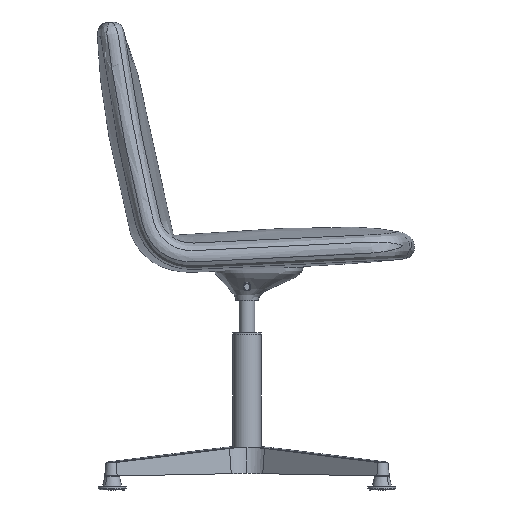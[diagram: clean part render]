
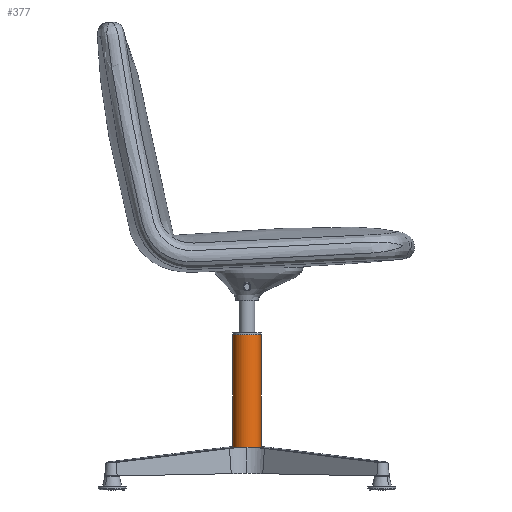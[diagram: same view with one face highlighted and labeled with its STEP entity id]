
A CAD part, left-side view. The second image highlights one B-rep face of the part: STEP entity #377.
In plain terms, the highlighted free-form (B-spline) face has degree [2, 1] with [5, 2] control points.
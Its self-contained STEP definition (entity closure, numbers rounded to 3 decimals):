
#106=(
BOUNDED_CURVE()
B_SPLINE_CURVE(1,(#10537,#10538),.UNSPECIFIED.,.F.,.F.)
B_SPLINE_CURVE_WITH_KNOTS((2,2),(0.,176.011),.UNSPECIFIED.)
CURVE()
GEOMETRIC_REPRESENTATION_ITEM()
RATIONAL_B_SPLINE_CURVE((1.,1.))
REPRESENTATION_ITEM('')
);
#107=(
BOUNDED_CURVE()
B_SPLINE_CURVE(2,(#10539,#10540,#10541,#10542,#10543),.UNSPECIFIED.,.F.,
 .F.)
B_SPLINE_CURVE_WITH_KNOTS((3,2,3),(-75.398,-37.699,
0.),.UNSPECIFIED.)
CURVE()
GEOMETRIC_REPRESENTATION_ITEM()
RATIONAL_B_SPLINE_CURVE((1.,0.707,1.,0.707,1.))
REPRESENTATION_ITEM('')
);
#108=(
BOUNDED_CURVE()
B_SPLINE_CURVE(2,(#10544,#10545,#10546,#10547,#10548),.UNSPECIFIED.,.F.,
 .F.)
B_SPLINE_CURVE_WITH_KNOTS((3,2,3),(-75.398,-37.699,
0.),.UNSPECIFIED.)
CURVE()
GEOMETRIC_REPRESENTATION_ITEM()
RATIONAL_B_SPLINE_CURVE((1.,0.707,1.,0.707,1.))
REPRESENTATION_ITEM('')
);
#211=(
BOUNDED_SURFACE()
B_SPLINE_SURFACE(2,1,((#10511,#10512),(#10513,#10514),(#10515,#10516),(#10517,
#10518),(#10519,#10520)),.UNSPECIFIED.,.F.,.F.,.F.)
B_SPLINE_SURFACE_WITH_KNOTS((3,2,3),(2,2),(-75.398,-37.699,
0.),(0.,176.011),.UNSPECIFIED.)
GEOMETRIC_REPRESENTATION_ITEM()
RATIONAL_B_SPLINE_SURFACE(((1.,1.),(0.707,0.707),
(1.,1.),(0.707,0.707),(1.,1.)))
REPRESENTATION_ITEM('')
SURFACE()
);
#377=ADVANCED_FACE('',(#510),#211,.T.);
#510=FACE_OUTER_BOUND('',#645,.T.);
#645=EDGE_LOOP('',(#1142,#1143,#1144,#1145));
#1142=ORIENTED_EDGE('',*,*,#1451,.T.);
#1143=ORIENTED_EDGE('',*,*,#1448,.T.);
#1144=ORIENTED_EDGE('',*,*,#1452,.F.);
#1145=ORIENTED_EDGE('',*,*,#1450,.F.);
#1448=EDGE_CURVE('',#1824,#1825,#1653,.T.);
#1450=EDGE_CURVE('',#1826,#1827,#106,.T.);
#1451=EDGE_CURVE('',#1826,#1824,#107,.T.);
#1452=EDGE_CURVE('',#1827,#1825,#108,.T.);
#1653=B_SPLINE_CURVE_WITH_KNOTS('',1,(#10530,#10531),.UNSPECIFIED.,.F.,
 .F.,(2,2),(0.,176.011),.UNSPECIFIED.);
#1824=VERTEX_POINT('',#10521);
#1825=VERTEX_POINT('',#10522);
#1826=VERTEX_POINT('',#10523);
#1827=VERTEX_POINT('',#10524);
#10511=CARTESIAN_POINT('',(0.,-25.,277.));
#10512=CARTESIAN_POINT('',(0.,-25.,52.531));
#10513=CARTESIAN_POINT('',(-25.,-25.,277.));
#10514=CARTESIAN_POINT('',(-25.,-25.,52.531));
#10515=CARTESIAN_POINT('',(-25.,0.,277.));
#10516=CARTESIAN_POINT('',(-25.,0.,52.531));
#10517=CARTESIAN_POINT('',(-25.,25.,277.));
#10518=CARTESIAN_POINT('',(-25.,25.,52.531));
#10519=CARTESIAN_POINT('',(0.,25.,277.));
#10520=CARTESIAN_POINT('',(0.,25.,52.531));
#10521=CARTESIAN_POINT('',(0.,25.,277.));
#10522=CARTESIAN_POINT('',(0.,25.,52.531));
#10523=CARTESIAN_POINT('',(0.,-25.,277.));
#10524=CARTESIAN_POINT('',(0.,-25.,52.531));
#10530=CARTESIAN_POINT('',(0.,25.,277.));
#10531=CARTESIAN_POINT('',(0.,25.,52.531));
#10537=CARTESIAN_POINT('',(0.,-25.,277.));
#10538=CARTESIAN_POINT('',(0.,-25.,52.531));
#10539=CARTESIAN_POINT('',(0.,-25.,277.));
#10540=CARTESIAN_POINT('',(-25.,-25.,277.));
#10541=CARTESIAN_POINT('',(-25.,0.,277.));
#10542=CARTESIAN_POINT('',(-25.,25.,277.));
#10543=CARTESIAN_POINT('',(0.,25.,277.));
#10544=CARTESIAN_POINT('',(0.,-25.,52.531));
#10545=CARTESIAN_POINT('',(-25.,-25.,52.531));
#10546=CARTESIAN_POINT('',(-25.,0.,52.531));
#10547=CARTESIAN_POINT('',(-25.,25.,52.531));
#10548=CARTESIAN_POINT('',(0.,25.,52.531));
